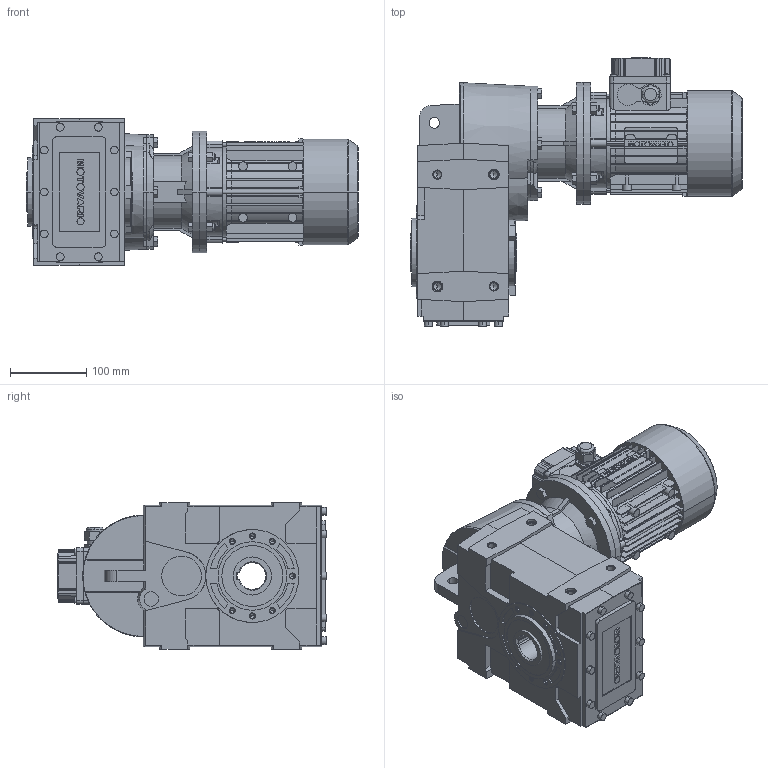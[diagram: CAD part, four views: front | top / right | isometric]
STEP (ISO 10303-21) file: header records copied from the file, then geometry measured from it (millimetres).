
FILE_DESCRIPTION( ( '' ), '1' );
FILE_NAME( '//expscmdclustefs.cadenas.external/client_exchange/iodir/jobs/output/wkb51874829_no0/STEP/S062C23_1871_B53500T0711_2_03.stp', '2012-12-03T05:49:07', ( '' ), ( '' ), ' ', ' ', ' ' );
FILE_SCHEMA( ( 'CONFIG_CONTROL_DESIGN' ) );
Length unit declared in the file: millimetre
Products named in the file (10): 1; 2; 3; 4; 5; 6; 7; 8; 9; 10
Bounding box: 436 x 352.5 x 193 mm (x, y, z)
Volume: 10267396.8 mm3; surface area: 716558.1 mm2
Topology: 10 solids, 10 shells, 2321 faces, 6366 edges, 4189 vertices
Faces by surface type: plane 1204, cylinder 963, cone 139, torus 11, sphere 4
Entity records: 75164 total; most frequent: CARTESIAN_POINT 14272, DIRECTION 13006, ORIENTED_EDGE 12668, EDGE_CURVE 6334, AXIS2_PLACEMENT_3D 4561, VERTEX_POINT 4189, LINE 3884, VECTOR 3884
